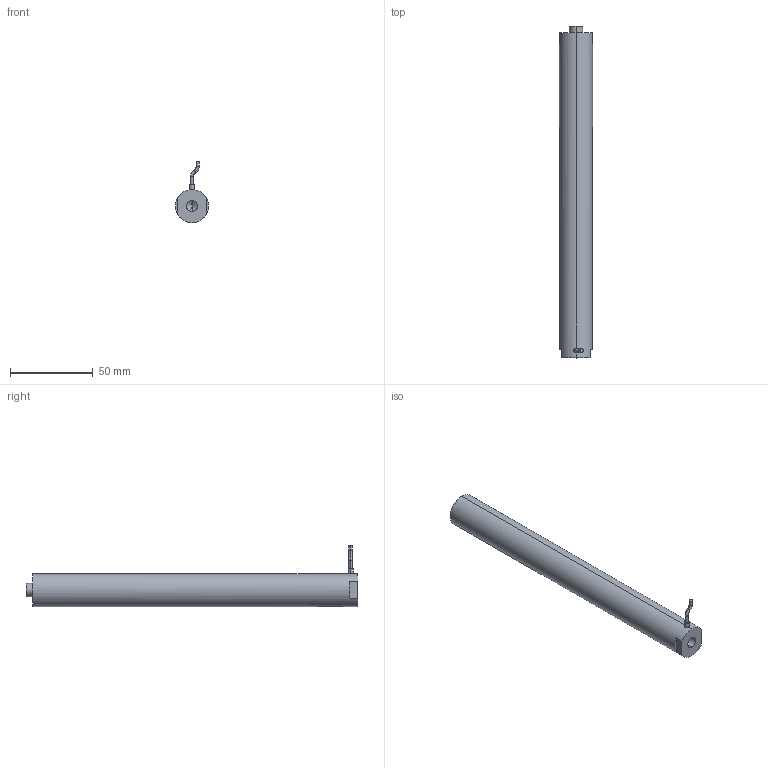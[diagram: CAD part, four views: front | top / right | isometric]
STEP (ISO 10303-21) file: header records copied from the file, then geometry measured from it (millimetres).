
FILE_DESCRIPTION (( 'STEP AP203' ), '1' );
FILE_NAME ('ﾆｽﾍｷﾊｽ200VS20.STEP', '2021-07-08T05:41:19', ( 'ﾎ｢ﾈ橆ﾃｻｧ' ), ( 'ﾎ｢ﾈ晥ｫﾋｾ' ), 'SwSTEP 2.0', 'SolidWorks 2016', '' );
FILE_SCHEMA (( 'CONFIG_CONTROL_DESIGN' ));
Length unit declared in the file: millimetre
Products named in the file (1): ƽͷʽ200VS20
Bounding box: 20 x 201 x 37.06 mm (x, y, z)
Volume: 61637.6 mm3; surface area: 13466.6 mm2
Topology: 1 solids, 2 shells, 936 faces, 2530 edges, 1681 vertices
Faces by surface type: bspline 523, plane 301, cylinder 106, torus 4, cone 2
Entity records: 45678 total; most frequent: CARTESIAN_POINT 26811, ORIENTED_EDGE 5048, EDGE_CURVE 2524, DIRECTION 1884, B_SPLINE_CURVE_WITH_KNOTS 1726, VERTEX_POINT 1679, EDGE_LOOP 1023, ADVANCED_FACE 935
